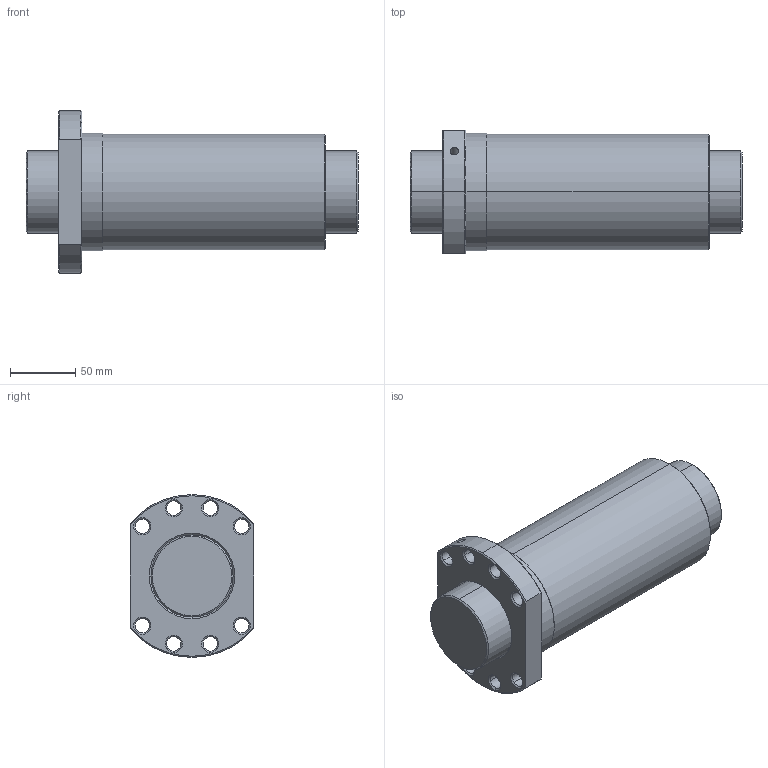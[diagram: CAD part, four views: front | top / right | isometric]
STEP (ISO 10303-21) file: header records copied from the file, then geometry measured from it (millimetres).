
FILE_DESCRIPTION(('no description'),'unknown implementation level');
FILE_NAME('R63_10T6_DDB_255_255_0_023_65.stp',' ',('HIWIN GmbH'),('CADClick - KiM GmbH - www.kimweb.de'),'unknown preprocess','ACIS','unknown authorization');
FILE_SCHEMA(('CONFIG_CONTROL_DESIGN'));
Length unit declared in the file: millimetre
Products named in the file (2): 1; 2
Bounding box: 255 x 95 x 125 mm (x, y, z)
Volume: 1496873 mm3; surface area: 173970.4 mm2
Topology: 2 solids, 2 shells, 90 faces, 204 edges, 119 vertices
Faces by surface type: cone 52, cylinder 30, plane 8
Entity records: 2677 total; most frequent: CARTESIAN_POINT 496, DIRECTION 484, ORIENTED_EDGE 404, EDGE_CURVE 202, AXIS2_PLACEMENT_3D 200, VERTEX_POINT 119, EDGE_LOOP 111, CIRCLE 108
